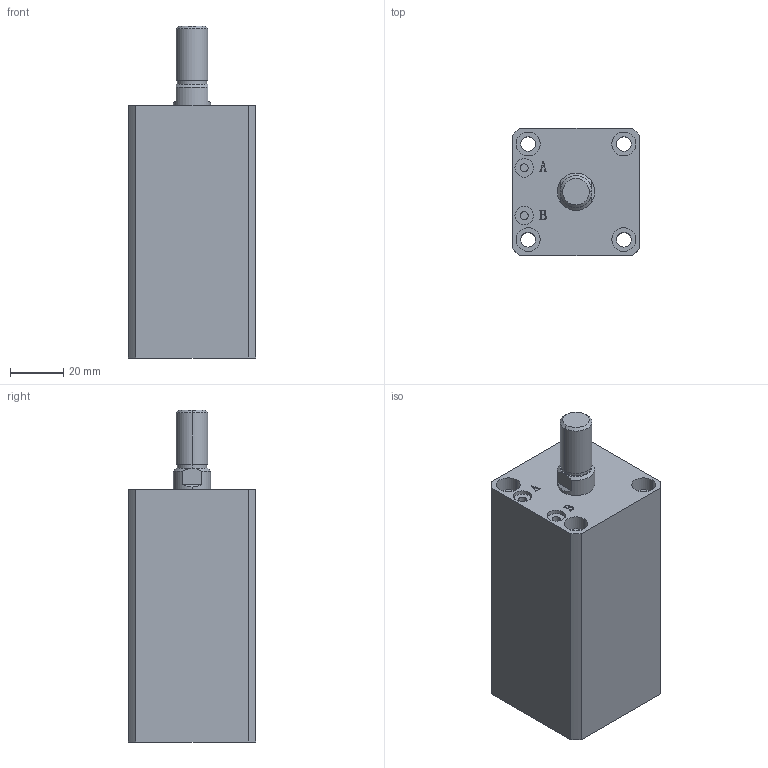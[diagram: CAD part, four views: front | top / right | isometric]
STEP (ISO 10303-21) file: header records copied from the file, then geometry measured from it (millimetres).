
FILE_DESCRIPTION (( 'STEP AP203' ), '1' );
FILE_NAME ('HTB-SDMA25-50W.STEP', '2019-10-07T10:54:54', ( '微软用户' ), ( '微软中国' ), 'SwSTEP 2.0', 'SolidWorks 2012', '' );
FILE_SCHEMA (( 'CONFIG_CONTROL_DESIGN' ));
Length unit declared in the file: millimetre
Products named in the file (3): HTB-SDMA25-50W; HTB-SDMA25-50W活塞杆; HTB-SDMA25-50掛极
Assembly tree (2 placements, depth 2):
  HTB-SDMA25-50W
    HTB-SDMA25-50掛极
    HTB-SDMA25-50W活塞杆
Bounding box: 48 x 48 x 125 mm (x, y, z)
Volume: 192804.1 mm3; surface area: 42667.8 mm2
Topology: 2 solids, 2 shells, 141 faces, 335 edges, 220 vertices
Faces by surface type: plane 67, cylinder 48, bspline 16, torus 6, cone 4
Entity records: 5178 total; most frequent: CARTESIAN_POINT 1609, ORIENTED_EDGE 670, DIRECTION 667, EDGE_CURVE 335, AXIS2_PLACEMENT_3D 242, VERTEX_POINT 220, VECTOR 183, LINE 183
